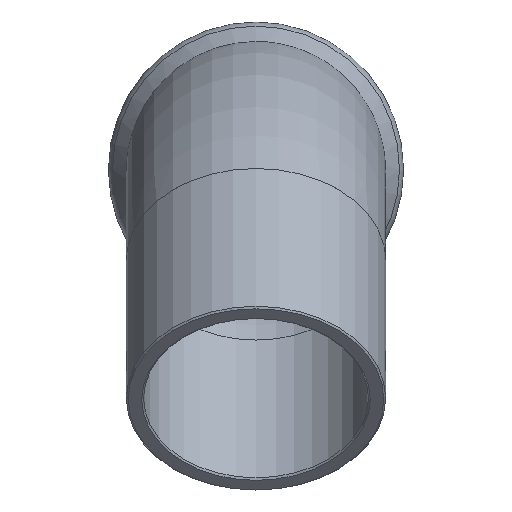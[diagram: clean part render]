
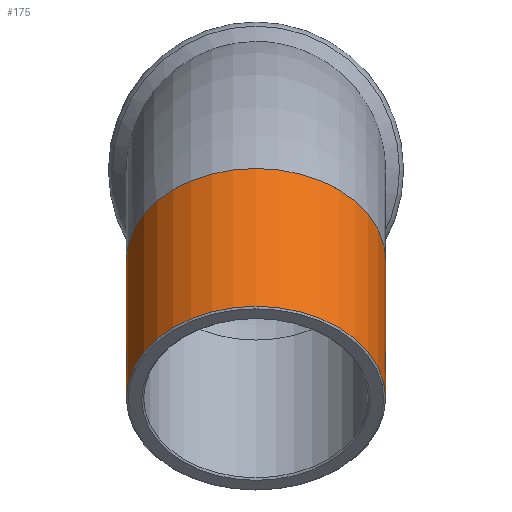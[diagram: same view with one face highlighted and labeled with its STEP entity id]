
A CAD part, top view. The second image highlights one B-rep face of the part: STEP entity #175.
In plain terms, the highlighted cylindrical face has radius 14.287 mm (diameter 28.575 mm), a full revolution.
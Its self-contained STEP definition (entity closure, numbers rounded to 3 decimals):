
#144=CARTESIAN_POINT('',(14.288,9.051,39.457));
#145=VERTEX_POINT('',#144);
#146=CARTESIAN_POINT('',(0.0,9.051,39.457));
#147=DIRECTION('',(0.0,-0.707,0.707));
#148=DIRECTION('',(-1.0,0.0,0.0));
#149=AXIS2_PLACEMENT_3D('',#146,#147,#148);
#150=CIRCLE('',#149,14.288);
#151=EDGE_CURVE('',#145,#145,#150,.T.);
#156=CARTESIAN_POINT('',(0.0,24.254,24.254));
#157=DIRECTION('',(0.0,-0.707,0.707));
#158=DIRECTION('',(-1.0,0.0,0.0));
#159=AXIS2_PLACEMENT_3D('',#156,#157,#158);
#160=CYLINDRICAL_SURFACE('',#159,14.288);
#161=CARTESIAN_POINT('',(14.288,24.254,24.254));
#162=VERTEX_POINT('',#161);
#163=CARTESIAN_POINT('',(0.0,24.254,24.254));
#164=DIRECTION('',(0.0,0.707,-0.707));
#165=DIRECTION('',(-1.0,0.0,0.0));
#166=AXIS2_PLACEMENT_3D('',#163,#164,#165);
#167=CIRCLE('',#166,14.288);
#168=EDGE_CURVE('',#162,#162,#167,.T.);
#169=ORIENTED_EDGE('',*,*,#168,.F.);
#170=EDGE_LOOP('',(#169));
#171=FACE_OUTER_BOUND('',#170,.T.);
#172=ORIENTED_EDGE('',*,*,#151,.F.);
#173=EDGE_LOOP('',(#172));
#174=FACE_BOUND('',#173,.T.);
#175=ADVANCED_FACE('',(#171,#174),#160,.T.);
